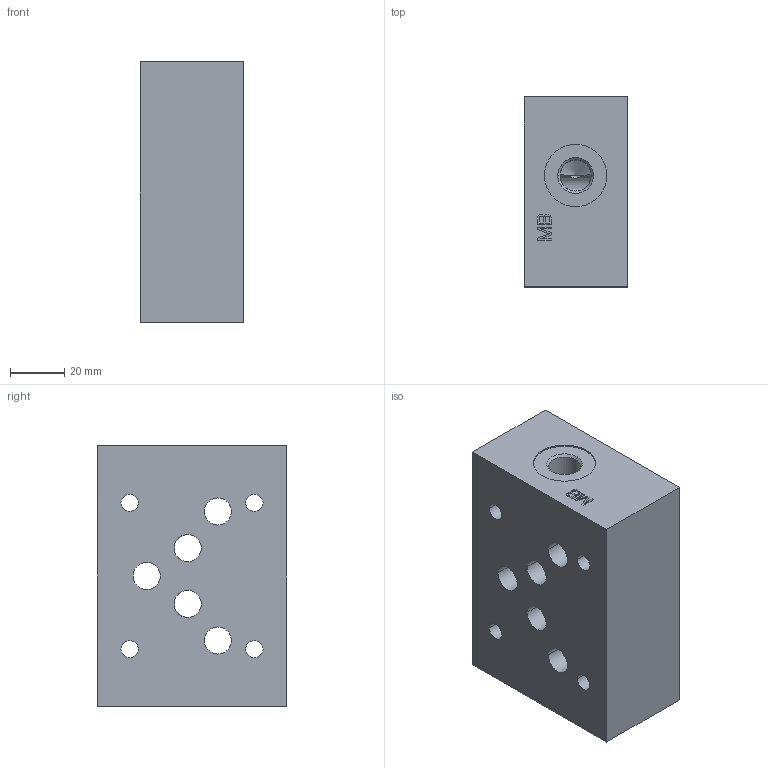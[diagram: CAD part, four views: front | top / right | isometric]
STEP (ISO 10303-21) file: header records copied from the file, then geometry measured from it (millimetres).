
FILE_DESCRIPTION((''),'2;1');
FILE_NAME('402193_ASM','2023-10-11T',('l.soukupova'),(''),'PRO/ENGINEER BY PARAMETRIC TECHNOLOGY CORPORATION, 2015440','PRO/ENGINEER BY PARAMETRIC TECHNOLOGY CORPORATION, 2015440','');
FILE_SCHEMA(('AUTOMOTIVE_DESIGN { 1 0 10303 214 1 1 1 1 }'));
Length unit declared in the file: millimetre
Products named in the file (3): 759_7590; DKAR00014_N70; 402193_ASM
Assembly tree (6 placements, depth 2):
  402193_ASM
    759_7590
    DKAR00014_N70  x5
Bounding box: 38.28 x 70 x 96 mm (x, y, z)
Volume: 227521.7 mm3; surface area: 39162.4 mm2
Topology: 6 solids, 8 shells, 176 faces, 493 edges, 378 vertices
Faces by surface type: plane 108, cylinder 60, cone 8
Entity records: 6887 total; most frequent: CARTESIAN_POINT 1202, DIRECTION 849, ORIENTED_EDGE 798, PRESENTATION_STYLE_ASSIGNMENT 451, STYLED_ITEM 450, CURVE_STYLE 440, EDGE_CURVE 402, VECTOR 329
